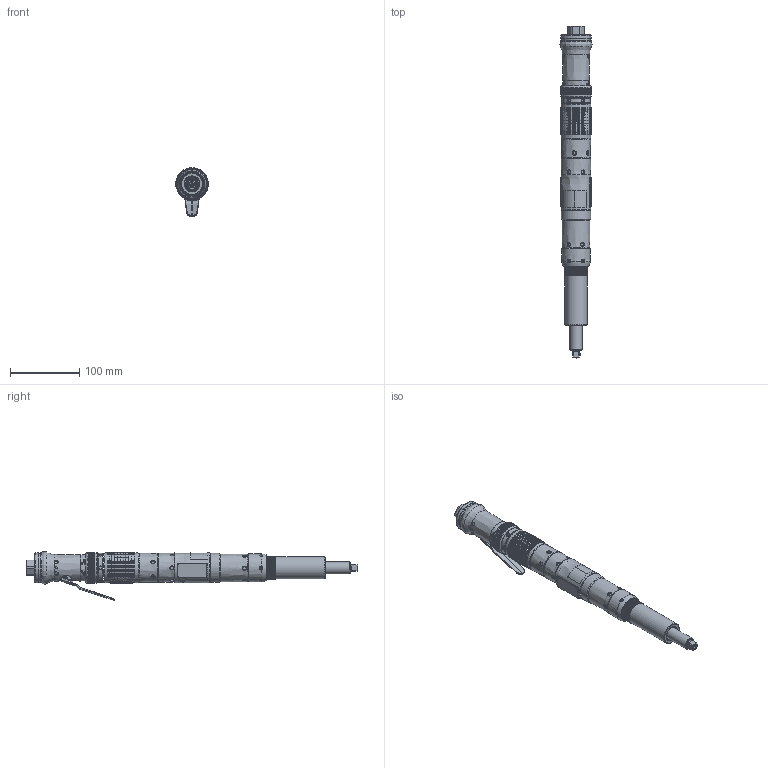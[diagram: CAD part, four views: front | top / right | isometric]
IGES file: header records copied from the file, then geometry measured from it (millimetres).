
Global section: file name: C:\Documents and Settings\rogupta\Desktop\siji2\QA6 STRAIGHT SHUTOFF\16595076\16595076.igs; native system: Unigraphics Version X V2.0; preprocessor: Unigraphics NX IGES V2.0; date: 20070510.185241; units: inch
Bounding box: 46.21 x 477.91 x 70.45 mm (x, y, z)
Surface area: 86006.1 mm2 (no closed solid volume)
Topology: 0 solids, 0 shells, 1069 faces, 13451 edges, 13288 vertices
Faces by surface type: revolution 584, extrusion 455, bspline 28, offset 2
